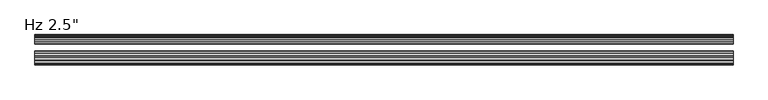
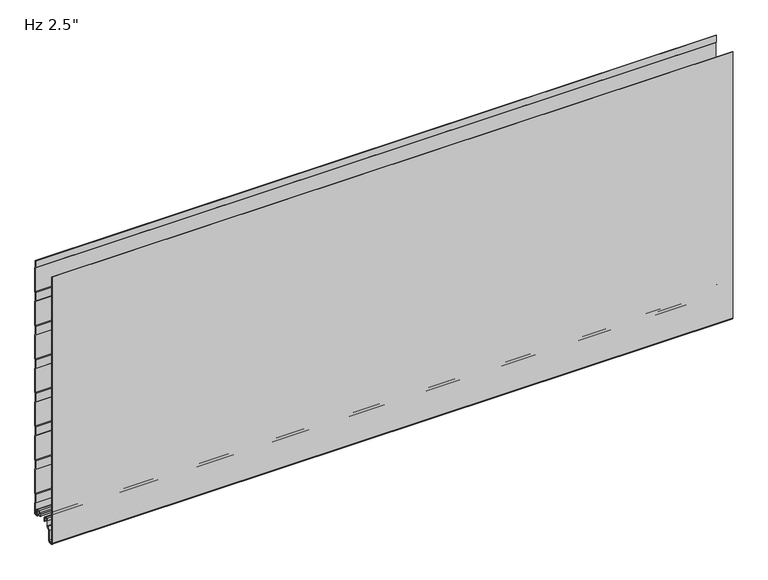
"""IFC4 building model written with IfcOpenShell, lengths in millimetres: plate geometry."""

from ifc_helpers import new_model, si_unit, point, frame, frame_2d, origin, place, context, project, spatial, polyline, circle_curve, trimmed, segment, composite_curve, outline, extrude, source, transform, mapped, element, save
from ifc_brep_helpers import plane_surface, cylinder_surface, revolved_surface, advanced_brep


def plate_89738af0(model_context):
    return source(origin(), model_context, "Body", "SolidModel", [
        extrude(outline(composite_curve([segment(trimmed(circle_curve(frame_2d((-59.9297491, -32.4521148)), 3.5702393), [point((-59.6184787, -36.0087592))], [point((-63.4999884, -32.4521125))], False, "CARTESIAN"), True, "CONTINUOUS"), segment(polyline([(-63.4999884, -32.4521125), (-63.4996024, 571.2), (-62.4993815, 571.2), (-62.4993815, -32.509446)]), True, "CONTINUOUS"), segment(trimmed(circle_curve(frame_2d((-59.9297816, -32.4521176)), 2.5702393), [point((-62.4993815, -32.509446))], [point((-59.705696, -35.0125699))], True, "CARTESIAN"), True, "CONTINUOUS"), segment(polyline([(-59.705696, -35.0125699), (-54.7238751, -34.5765709)]), True, "CONTINUOUS"), segment(trimmed(circle_curve(frame_2d((-55.2052657, -31.9198392)), 2.6999926), [point((-54.7238751, -34.5765709))], [point((-52.5052731, -31.9198392))], True, "CARTESIAN"), True, "CONTINUOUS"), segment(polyline([(-52.5052731, -31.9198392), (-52.5052731, -9.8247096), (-47.003202, -4.3226385)]), True, "CONTINUOUS"), segment(trimmed(circle_curve(frame_2d((-48.2052797, -3.1205608)), 1.6999946), [point((-47.003202, -4.3226385))], [point((-46.5052851, -3.1205608))], True, "CARTESIAN"), True, "CONTINUOUS"), segment(polyline([(-46.5052851, -3.1205608), (-46.5052851, 8.6903283)]), True, "CONTINUOUS"), segment(trimmed(circle_curve(frame_2d((-43.1552898, 8.6903283)), 3.3499953), [point((-46.5052851, 8.6903283))], [point((-43.1552898, 12.0403236))], False, "CARTESIAN"), True, "CONTINUOUS"), segment(polyline([(-43.1552898, 12.0403236), (-38.7552986, 12.0403236)]), True, "CONTINUOUS"), segment(trimmed(circle_curve(frame_2d((-38.7552986, 8.6903283)), 3.3499953), [point((-38.7552986, 12.0403236))], [point((-35.4053033, 8.6903283))], False, "CARTESIAN"), True, "CONTINUOUS"), segment(polyline([(-35.4053033, 8.6903283), (-35.4053033, 5.9912173), (-34.0068244, 5.9912173), (-34.0068244, 2.2328239)]), True, "CONTINUOUS"), segment(trimmed(circle_curve(frame_2d((-35.2068211, 2.2313092)), 1.1999976), [point((-34.0068244, 2.2328239))], [point((-35.1762992, 1.0316999))], False, "CARTESIAN"), True, "CONTINUOUS"), segment(trimmed(circle_curve(frame_2d((-35.2068211, 2.2313092)), 1.1999976), [point((-35.1762992, 1.0316999))], [point((-36.4053033, 2.1710221))], False, "CARTESIAN"), True, "CONTINUOUS"), segment(polyline([(-36.4053033, 2.1710221), (-36.4053033, 8.6903283)]), True, "CONTINUOUS"), segment(trimmed(circle_curve(frame_2d((-38.7552986, 8.6903283)), 2.3499953), [point((-36.4053033, 8.6903283))], [point((-38.7552986, 11.0403236))], True, "CARTESIAN"), True, "CONTINUOUS"), segment(polyline([(-38.7552986, 11.0403236), (-43.1552898, 11.0403236)]), True, "CONTINUOUS"), segment(trimmed(circle_curve(frame_2d((-43.1552898, 8.6903283)), 2.3499953), [point((-43.1552898, 11.0403236))], [point((-45.5052851, 8.6903283))], True, "CARTESIAN"), True, "CONTINUOUS"), segment(polyline([(-45.5052851, 8.6903283), (-45.5052851, -3.1205608)]), True, "CONTINUOUS"), segment(trimmed(circle_curve(frame_2d((-48.2052797, -3.1205608)), 2.6999946), [point((-45.5052851, -3.1205608))], [point((-46.2960952, -5.0297453))], False, "CARTESIAN"), True, "CONTINUOUS"), segment(polyline([(-46.2960952, -5.0297453), (-51.1245127, -9.8581627)]), True, "CONTINUOUS"), segment(trimmed(circle_curve(frame_2d((-50.2052757, -10.7773997)), 1.2999974), [point((-51.1245127, -9.8581627))], [point((-51.5052731, -10.7773997))], True, "CARTESIAN"), True, "CONTINUOUS"), segment(polyline([(-51.5052731, -10.7773997), (-51.5052731, -31.9198392)]), True, "CONTINUOUS"), segment(trimmed(circle_curve(frame_2d((-55.2052657, -31.9198392)), 3.6999926), [point((-51.5052731, -31.9198392))], [point((-54.5944646, -35.5690675))], False, "CARTESIAN"), True, "CONTINUOUS"), segment(polyline([(-54.5944646, -35.5690675), (-59.6184787, -36.0087592)]), True, "CONTINUOUS")], self_intersect=False)), frame((-730.0, 0.0, 0.0), z_axis=(1.0, 0.0, 0.0), x_axis=(0.0, 1.0, 0.0)), (0.0, 0.0, 1.0), 1460.0),
        advanced_brep(
        [(-730.0, -17.0015368, 2.0313088), (-730.0, -18.00154, 1.0313116), (-730.0, -19.0015314, 2.0313088), (-730.0, -19.0015314, 6.0315125), (-730.0, -18.0015368, 6.0315125), (-730.0, -18.0015368, 8.7237223), (-730.0, -14.7015411, 12.023718), (-730.0, -10.3015499, 12.023718), (-730.0, -7.0015544, 8.7237225), (-730.0, -7.0015544, -1.6962564), (-730.0, -5.2315602, -3.4662506), (-730.0, -1.0000126, -3.4662506), (-730.0, -1.0000126, 21.034026), (-730.0, -2.2002516, 22.4196686), (-730.0, -2.2002516, 41.7948349), (-730.0, -1.0000209, 43.1804679), (-730.0, -1.0000209, 97.2338833), (-730.0, -2.2002516, 98.6195162), (-730.0, -2.2002516, 117.9946825), (-730.0, -1.0000209, 119.3803155), (-730.0, -1.0000209, 173.4337309), (-730.0, -2.2002516, 174.8193638), (-730.0, -2.2002516, 194.1945301), (-730.0, -1.0000209, 195.5801631), (-730.0, -1.0000209, 249.6335785), (-730.0, -2.2002516, 251.0192114), (-730.0, -2.2002516, 270.3943777), (-730.0, -1.0000209, 271.7800107), (-730.0, -1.0000209, 325.8334261), (-730.0, -2.2002516, 327.219059), (-730.0, -2.2002516, 346.5942253), (-730.0, -1.0000209, 347.9798583), (-730.0, -1.0000209, 402.0332737), (-730.0, -2.2002516, 403.4189066), (-730.0, -2.2002516, 422.7940729), (-730.0, -1.0000209, 424.1797059), (-730.0, -1.0000209, 478.2331213), (-730.0, -2.2002516, 479.6187542), (-730.0, -2.2002516, 498.9939205), (-730.0, -1.0000209, 500.3795535), (-730.0, -1.0000209, 554.4329689), (-730.0, -2.2002516, 555.8186018), (-730.0, -2.2002516, 571.2), (-730.0, -1.2002516, 571.2), (-730.0, -1.2002516, 556.1914823), (-730.0, -0.3418094, 555.2004346), (-730.0, -2.09e-05, 554.2838177), (-730.0, -2.09e-05, 500.5287046), (-730.0, -0.3418094, 499.6120877), (-730.0, -1.2002516, 498.6210401), (-730.0, -1.2002516, 479.9916347), (-730.0, -0.3418094, 479.000587), (-730.0, -2.09e-05, 478.0839701), (-730.0, -2.09e-05, 424.328857), (-730.0, -0.3418094, 423.4122401), (-730.0, -1.2002516, 422.4211925), (-730.0, -1.2002516, 403.7917871), (-730.0, -0.3418094, 402.8007394), (-730.0, -2.09e-05, 401.8841225), (-730.0, -2.09e-05, 348.1290094), (-730.0, -0.3418094, 347.2123925), (-730.0, -1.2002516, 346.2213449), (-730.0, -1.2002516, 327.5919395), (-730.0, -0.3418094, 326.6008918), (-730.0, -2.09e-05, 325.6842749), (-730.0, -2.09e-05, 271.9291618), (-730.0, -0.3418094, 271.0125449), (-730.0, -1.2002516, 270.0214973), (-730.0, -1.2002516, 251.3920919), (-730.0, -0.3418094, 250.4010442), (-730.0, -2.09e-05, 249.4844273), (-730.0, -2.09e-05, 195.7293142), (-730.0, -0.3418094, 194.8126973), (-730.0, -1.2002516, 193.8216497), (-730.0, -1.2002516, 175.1922443), (-730.0, -0.3418094, 174.2011966), (-730.0, -2.09e-05, 173.2845797), (-730.0, -2.09e-05, 119.5294666), (-730.0, -0.3418094, 118.6128497), (-730.0, -1.2002516, 117.6218021), (-730.0, -1.2002516, 98.9923967), (-730.0, -0.3418094, 98.001349), (-730.0, -2.09e-05, 97.0847321), (-730.0, -2.09e-05, 43.329619), (-730.0, -0.3418094, 42.4130021), (-730.0, -1.2002516, 41.4219545), (-730.0, -1.2002516, 22.7925491), (-730.0, -0.3418094, 21.8015014), (-730.0, -2.09e-05, 20.8847931), (-730.0, -1.26e-05, -3.0662545), (-730.0, -1.4000087, -4.4662506), (-730.0, -5.2315602, -4.4662506), (-730.0, -8.0015544, -1.6962564), (-730.0, -8.0015544, 8.7237225), (-730.0, -10.3015499, 11.023718), (-730.0, -14.7015411, 11.023718), (-730.0, -17.0015368, 8.7237223), (730.0, -17.0015368, 2.0313088), (730.0, -17.0015368, 8.7237223), (730.0, -14.7015411, 11.023718), (730.0, -10.3015499, 11.023718), (730.0, -8.0015544, 8.7237225), (730.0, -8.0015544, -1.6962564), (730.0, -5.2315602, -4.4662506), (730.0, -1.4000087, -4.4662506), (730.0, -1.26e-05, -3.0662545), (730.0, -1.26e-05, 20.8848845), (730.0, -0.3418094, 21.8015014), (730.0, -1.2002516, 22.7925491), (730.0, -1.2002516, 41.4219545), (730.0, -0.3418094, 42.4130021), (730.0, -2.09e-05, 43.329619), (730.0, -2.09e-05, 97.0847321), (730.0, -0.3418094, 98.001349), (730.0, -1.2002516, 98.9923967), (730.0, -1.2002516, 117.6218021), (730.0, -0.3418094, 118.6128497), (730.0, -2.09e-05, 119.5294666), (730.0, -2.09e-05, 173.2845797), (730.0, -0.3418094, 174.2011966), (730.0, -1.2002516, 175.1922443), (730.0, -1.2002516, 193.8216497), (730.0, -0.3418094, 194.8126973), (730.0, -2.09e-05, 195.7293142), (730.0, -2.09e-05, 249.4844273), (730.0, -0.3418094, 250.4010442), (730.0, -1.2002516, 251.3920919), (730.0, -1.2002516, 270.0214973), (730.0, -0.3418094, 271.0125449), (730.0, -2.09e-05, 271.9291618), (730.0, -2.09e-05, 325.6842749), (730.0, -0.3418094, 326.6008918), (730.0, -1.2002516, 327.5919395), (730.0, -1.2002516, 346.2213449), (730.0, -0.3418094, 347.2123925), (730.0, -2.09e-05, 348.1290094), (730.0, -2.09e-05, 401.8841225), (730.0, -0.3418094, 402.8007394), (730.0, -1.2002516, 403.7917871), (730.0, -1.2002516, 422.4211925), (730.0, -0.3418094, 423.4122401), (730.0, -2.09e-05, 424.328857), (730.0, -2.09e-05, 478.0839701), (730.0, -0.3418094, 479.000587), (730.0, -1.2002516, 479.9916347), (730.0, -1.2002516, 498.6210401), (730.0, -0.3418094, 499.6120877), (730.0, -2.09e-05, 500.5287046), (730.0, -2.09e-05, 554.2838177), (730.0, -0.3418094, 555.2004346), (730.0, -1.2002516, 556.1914823), (730.0, -1.2002516, 571.2), (730.0, -2.2002516, 571.2), (730.0, -2.2002516, 555.8186018), (730.0, -1.0000209, 554.4329689), (730.0, -1.0000209, 500.3795535), (730.0, -2.2002516, 498.9939205), (730.0, -2.2002516, 479.6187542), (730.0, -1.0000209, 478.2331213), (730.0, -1.0000209, 424.1797059), (730.0, -2.2002516, 422.7940729), (730.0, -2.2002516, 403.4189066), (730.0, -1.0000209, 402.0332737), (730.0, -1.0000209, 347.9798583), (730.0, -2.2002516, 346.5942253), (730.0, -2.2002516, 327.219059), (730.0, -1.0000209, 325.8334261), (730.0, -1.0000209, 271.7800107), (730.0, -2.2002516, 270.3943777), (730.0, -2.2002516, 251.0192114), (730.0, -1.0000209, 249.6335785), (730.0, -1.0000209, 195.5801631), (730.0, -2.2002516, 194.1945301), (730.0, -2.2002516, 174.8193638), (730.0, -1.0000209, 173.4337309), (730.0, -1.0000209, 119.3803155), (730.0, -2.2002516, 117.9946825), (730.0, -2.2002516, 98.6195162), (730.0, -1.0000209, 97.2338833), (730.0, -1.0000209, 43.1804679), (730.0, -2.2002516, 41.7948349), (730.0, -2.2002516, 22.4196686), (730.0, -1.0000126, 21.034026), (730.0, -1.0000126, -3.4662506), (730.0, -5.2315602, -3.4662506), (730.0, -7.0015544, -1.6962564), (730.0, -7.0015544, 8.7237225), (730.0, -10.3015499, 12.023718), (730.0, -14.7015411, 12.023718), (730.0, -18.0015368, 8.7237223), (730.0, -18.0015368, 6.0315125), (730.0, -19.0015314, 6.0315125), (730.0, -19.0015314, 2.0313088), (730.0, -18.0015401, 1.0313116)],
        [
            (0, 1, circle_curve(frame((-730.0, -18.0015341, 2.0313088), z_axis=(-1.0, 0.0, 0.0), x_axis=(0.0, 0.0, 1.0)), 0.9999973)),
            (1, 2, circle_curve(frame((-730.0, -18.0015342, 2.0313088), z_axis=(-1.0, 0.0, 0.0), x_axis=(0.0, 0.0, 1.0)), 0.9999972)),
            (2, 3),
            (3, 4),
            (4, 5),
            (5, 6, circle_curve(frame((-730.0, -14.7015411, 8.7237223), z_axis=(-1.0, 0.0, 0.0), x_axis=(0.0, 0.0, 1.0)), 3.2999957)),
            (6, 7),
            (7, 8, circle_curve(frame((-730.0, -10.3015499, 8.7237225), z_axis=(-1.0, 0.0, 0.0), x_axis=(0.0, 0.0, 1.0)), 3.2999955)),
            (8, 9),
            (9, 10, circle_curve(frame((-730.0, -5.2315602, -1.6962564), z_axis=(1.0, 0.0, 0.0), x_axis=(0.0, 0.0, 1.0)), 1.7699942)),
            (10, 11),
            (11, 12),
            (12, 13),
            (13, 14),
            (14, 15),
            (15, 16),
            (16, 17),
            (17, 18),
            (18, 19),
            (19, 20),
            (20, 21),
            (21, 22),
            (22, 23),
            (23, 24),
            (24, 25),
            (25, 26),
            (26, 27),
            (27, 28),
            (28, 29),
            (29, 30),
            (30, 31),
            (31, 32),
            (32, 33),
            (33, 34),
            (34, 35),
            (35, 36),
            (36, 37),
            (37, 38),
            (38, 39),
            (39, 40),
            (40, 41),
            (41, 42),
            (42, 43),
            (43, 44),
            (44, 45),
            (45, 46, circle_curve(frame((-730.0, -1.4000181, 554.2838177), z_axis=(-1.0, 0.0, 0.0), x_axis=(0.0, 0.0, 1.0)), 1.3999972)),
            (46, 47),
            (47, 48, circle_curve(frame((-730.0, -1.4000181, 500.5287046), z_axis=(-1.0, 0.0, 0.0), x_axis=(0.0, 0.0, 1.0)), 1.3999972)),
            (48, 49),
            (49, 50),
            (50, 51),
            (51, 52, circle_curve(frame((-730.0, -1.4000181, 478.0839701), z_axis=(-1.0, 0.0, 0.0), x_axis=(0.0, 0.0, 1.0)), 1.3999972)),
            (52, 53),
            (53, 54, circle_curve(frame((-730.0, -1.4000181, 424.328857), z_axis=(-1.0, 0.0, 0.0), x_axis=(0.0, 0.0, 1.0)), 1.3999972)),
            (54, 55),
            (55, 56),
            (56, 57),
            (57, 58, circle_curve(frame((-730.0, -1.4000181, 401.8841225), z_axis=(-1.0, 0.0, 0.0), x_axis=(0.0, 0.0, 1.0)), 1.3999972)),
            (58, 59),
            (59, 60, circle_curve(frame((-730.0, -1.4000181, 348.1290094), z_axis=(-1.0, 0.0, 0.0), x_axis=(0.0, 0.0, 1.0)), 1.3999972)),
            (60, 61),
            (61, 62),
            (62, 63),
            (63, 64, circle_curve(frame((-730.0, -1.4000181, 325.6842749), z_axis=(-1.0, 0.0, 0.0), x_axis=(0.0, 0.0, 1.0)), 1.3999972)),
            (64, 65),
            (65, 66, circle_curve(frame((-730.0, -1.4000181, 271.9291618), z_axis=(-1.0, 0.0, 0.0), x_axis=(0.0, 0.0, 1.0)), 1.3999972)),
            (66, 67),
            (67, 68),
            (68, 69),
            (69, 70, circle_curve(frame((-730.0, -1.4000181, 249.4844273), z_axis=(-1.0, 0.0, 0.0), x_axis=(0.0, 0.0, 1.0)), 1.3999972)),
            (70, 71),
            (71, 72, circle_curve(frame((-730.0, -1.4000181, 195.7293142), z_axis=(-1.0, 0.0, 0.0), x_axis=(0.0, 0.0, 1.0)), 1.3999972)),
            (72, 73),
            (73, 74),
            (74, 75),
            (75, 76, circle_curve(frame((-730.0, -1.4000181, 173.2845797), z_axis=(-1.0, 0.0, 0.0), x_axis=(0.0, 0.0, 1.0)), 1.3999972)),
            (76, 77),
            (77, 78, circle_curve(frame((-730.0, -1.4000181, 119.5294666), z_axis=(-1.0, 0.0, 0.0), x_axis=(0.0, 0.0, 1.0)), 1.3999972)),
            (78, 79),
            (79, 80),
            (80, 81),
            (81, 82, circle_curve(frame((-730.0, -1.4000181, 97.0847321), z_axis=(-1.0, 0.0, 0.0), x_axis=(0.0, 0.0, 1.0)), 1.3999972)),
            (82, 83),
            (83, 84, circle_curve(frame((-730.0, -1.4000181, 43.329619), z_axis=(-1.0, 0.0, 0.0), x_axis=(0.0, 0.0, 1.0)), 1.3999972)),
            (84, 85),
            (85, 86),
            (86, 87),
            (87, 88, circle_curve(frame((-730.0, -1.4000181, 20.8848845), z_axis=(-1.0, 0.0, 0.0), x_axis=(0.0, 0.0, 1.0)), 1.3999972)),
            (88, 89),
            (89, 90, circle_curve(frame((-730.0, -1.4000087, -3.0662545), z_axis=(-1.0, 0.0, 0.0), x_axis=(0.0, 0.0, 1.0)), 1.3999962)),
            (90, 91),
            (91, 92, circle_curve(frame((-730.0, -5.2315602, -1.6962564), z_axis=(-1.0, 0.0, 0.0), x_axis=(0.0, 0.0, 1.0)), 2.7699942)),
            (92, 93),
            (93, 94, circle_curve(frame((-730.0, -10.3015499, 8.7237225), z_axis=(1.0, 0.0, 0.0), x_axis=(0.0, 0.0, 1.0)), 2.2999955)),
            (94, 95),
            (95, 96, circle_curve(frame((-730.0, -14.7015411, 8.7237223), z_axis=(1.0, 0.0, 0.0), x_axis=(0.0, 0.0, 1.0)), 2.2999957)),
            (96, 0),
            (97, 98),
            (98, 99, circle_curve(frame((730.0, -14.7015411, 8.7237223), z_axis=(-1.0, 0.0, 0.0), x_axis=(0.0, 0.0, 1.0)), 2.2999957)),
            (99, 100),
            (100, 101, circle_curve(frame((730.0, -10.3015499, 8.7237225), z_axis=(-1.0, 0.0, 0.0), x_axis=(0.0, 0.0, 1.0)), 2.2999955)),
            (101, 102),
            (102, 103, circle_curve(frame((730.0, -5.2315602, -1.6962564), z_axis=(1.0, 0.0, 0.0), x_axis=(0.0, 0.0, 1.0)), 2.7699942)),
            (103, 104),
            (104, 105, circle_curve(frame((730.0, -1.4000087, -3.0662545), z_axis=(1.0, 0.0, 0.0), x_axis=(0.0, 0.0, 1.0)), 1.3999962)),
            (105, 106),
            (106, 107, circle_curve(frame((730.0, -1.4000181, 20.8848845), z_axis=(1.0, 0.0, 0.0), x_axis=(0.0, 0.0, 1.0)), 1.3999972)),
            (107, 108),
            (108, 109),
            (109, 110),
            (110, 111, circle_curve(frame((730.0, -1.4000181, 43.329619), z_axis=(1.0, 0.0, 0.0), x_axis=(0.0, 0.0, 1.0)), 1.3999972)),
            (111, 112),
            (112, 113, circle_curve(frame((730.0, -1.4000181, 97.0847321), z_axis=(1.0, 0.0, 0.0), x_axis=(0.0, 0.0, 1.0)), 1.3999972)),
            (113, 114),
            (114, 115),
            (115, 116),
            (116, 117, circle_curve(frame((730.0, -1.4000181, 119.5294666), z_axis=(1.0, 0.0, 0.0), x_axis=(0.0, 0.0, 1.0)), 1.3999972)),
            (117, 118),
            (118, 119, circle_curve(frame((730.0, -1.4000181, 173.2845797), z_axis=(1.0, 0.0, 0.0), x_axis=(0.0, 0.0, 1.0)), 1.3999972)),
            (119, 120),
            (120, 121),
            (121, 122),
            (122, 123, circle_curve(frame((730.0, -1.4000181, 195.7293142), z_axis=(1.0, 0.0, 0.0), x_axis=(0.0, 0.0, 1.0)), 1.3999972)),
            (123, 124),
            (124, 125, circle_curve(frame((730.0, -1.4000181, 249.4844273), z_axis=(1.0, 0.0, 0.0), x_axis=(0.0, 0.0, 1.0)), 1.3999972)),
            (125, 126),
            (126, 127),
            (127, 128),
            (128, 129, circle_curve(frame((730.0, -1.4000181, 271.9291618), z_axis=(1.0, 0.0, 0.0), x_axis=(0.0, 0.0, 1.0)), 1.3999972)),
            (129, 130),
            (130, 131, circle_curve(frame((730.0, -1.4000181, 325.6842749), z_axis=(1.0, 0.0, 0.0), x_axis=(0.0, 0.0, 1.0)), 1.3999972)),
            (131, 132),
            (132, 133),
            (133, 134),
            (134, 135, circle_curve(frame((730.0, -1.4000181, 348.1290094), z_axis=(1.0, 0.0, 0.0), x_axis=(0.0, 0.0, 1.0)), 1.3999972)),
            (135, 136),
            (136, 137, circle_curve(frame((730.0, -1.4000181, 401.8841225), z_axis=(1.0, 0.0, 0.0), x_axis=(0.0, 0.0, 1.0)), 1.3999972)),
            (137, 138),
            (138, 139),
            (139, 140),
            (140, 141, circle_curve(frame((730.0, -1.4000181, 424.328857), z_axis=(1.0, 0.0, 0.0), x_axis=(0.0, 0.0, 1.0)), 1.3999972)),
            (141, 142),
            (142, 143, circle_curve(frame((730.0, -1.4000181, 478.0839701), z_axis=(1.0, 0.0, 0.0), x_axis=(0.0, 0.0, 1.0)), 1.3999972)),
            (143, 144),
            (144, 145),
            (145, 146),
            (146, 147, circle_curve(frame((730.0, -1.4000181, 500.5287046), z_axis=(1.0, 0.0, 0.0), x_axis=(0.0, 0.0, 1.0)), 1.3999972)),
            (147, 148),
            (148, 149, circle_curve(frame((730.0, -1.4000181, 554.2838177), z_axis=(1.0, 0.0, 0.0), x_axis=(0.0, 0.0, 1.0)), 1.3999972)),
            (149, 150),
            (150, 151),
            (151, 152),
            (152, 153),
            (153, 154),
            (154, 155),
            (155, 156),
            (156, 157),
            (157, 158),
            (158, 159),
            (159, 160),
            (160, 161),
            (161, 162),
            (162, 163),
            (163, 164),
            (164, 165),
            (165, 166),
            (166, 167),
            (167, 168),
            (168, 169),
            (169, 170),
            (170, 171),
            (171, 172),
            (172, 173),
            (173, 174),
            (174, 175),
            (175, 176),
            (176, 177),
            (177, 178),
            (178, 179),
            (179, 180),
            (180, 181),
            (181, 182),
            (182, 183),
            (183, 184),
            (184, 185, circle_curve(frame((730.0, -5.2315602, -1.6962564), z_axis=(-1.0, 0.0, 0.0), x_axis=(0.0, 0.0, 1.0)), 1.7699942)),
            (185, 186),
            (186, 187, circle_curve(frame((730.0, -10.3015499, 8.7237225), z_axis=(1.0, 0.0, 0.0), x_axis=(0.0, 0.0, 1.0)), 3.2999955)),
            (187, 188),
            (188, 189, circle_curve(frame((730.0, -14.7015411, 8.7237223), z_axis=(1.0, 0.0, 0.0), x_axis=(0.0, 0.0, 1.0)), 3.2999957)),
            (189, 190),
            (190, 191),
            (191, 192),
            (192, 193, circle_curve(frame((730.0, -18.0015342, 2.0313088), z_axis=(1.0, 0.0, 0.0), x_axis=(0.0, 0.0, 1.0)), 0.9999972)),
            (193, 97, circle_curve(frame((730.0, -18.0015341, 2.0313088), z_axis=(1.0, 0.0, 0.0), x_axis=(0.0, 0.0, 1.0)), 0.9999973)),
            (42, 152),
            (151, 43),
            (96, 98),
            (97, 0),
            (95, 99),
            (94, 100),
            (93, 101),
            (92, 102),
            (91, 103),
            (90, 104),
            (89, 105),
            (88, 106),
            (87, 107),
            (86, 108),
            (85, 109),
            (84, 110),
            (83, 111),
            (82, 112),
            (81, 113),
            (80, 114),
            (79, 115),
            (78, 116),
            (77, 117),
            (76, 118),
            (75, 119),
            (74, 120),
            (73, 121),
            (72, 122),
            (71, 123),
            (70, 124),
            (69, 125),
            (68, 126),
            (67, 127),
            (66, 128),
            (65, 129),
            (64, 130),
            (63, 131),
            (62, 132),
            (61, 133),
            (60, 134),
            (59, 135),
            (58, 136),
            (57, 137),
            (56, 138),
            (55, 139),
            (54, 140),
            (53, 141),
            (52, 142),
            (51, 143),
            (50, 144),
            (49, 145),
            (48, 146),
            (47, 147),
            (46, 148),
            (45, 149),
            (44, 150),
            (41, 153),
            (40, 154),
            (39, 155),
            (38, 156),
            (37, 157),
            (36, 158),
            (35, 159),
            (34, 160),
            (33, 161),
            (32, 162),
            (31, 163),
            (30, 164),
            (29, 165),
            (28, 166),
            (27, 167),
            (26, 168),
            (25, 169),
            (24, 170),
            (23, 171),
            (22, 172),
            (21, 173),
            (20, 174),
            (19, 175),
            (18, 176),
            (17, 177),
            (16, 178),
            (15, 179),
            (14, 180),
            (13, 181),
            (12, 182),
            (11, 183),
            (10, 184),
            (9, 185),
            (8, 186),
            (7, 187),
            (6, 188),
            (5, 189),
            (4, 190),
            (3, 191),
            (2, 192),
            (1, 193),
        ],
        [
            plane_surface(frame((-730.0, -2.09e-05, 457.2), z_axis=(-1.0, 0.0, 0.0), x_axis=(0.0, 1.0, 0.0))),
            plane_surface(frame((730.0, -2.09e-05, 457.2), z_axis=(1.0, 0.0, 0.0), x_axis=(0.0, 1.0, 0.0))),
            plane_surface(frame((730.0, 9.9999791, 571.2), z_axis=(0.0, 0.0, 1.0), x_axis=(-1.0, 0.0, 0.0))),
            plane_surface(frame((-730.0, -17.0015368, 2.0313088), z_axis=(0.0, 1.0, 0.0), x_axis=(1.0, 0.0, 0.0))),
            revolved_surface(polyline([(730.0, -14.7015411, 11.023718), (-730.0, -14.7015411, 11.023718)]), (-730.0, -14.7015411, 8.7237223), (1.0, 0.0, 0.0)),
            plane_surface(frame((-730.0, -14.7015411, 11.023718), z_axis=(0.0, 0.0, -1.0), x_axis=(1.0, 0.0, 0.0))),
            revolved_surface(polyline([(730.0, -10.3015499, 11.023717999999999), (-730.0, -10.3015499, 11.023717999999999)]), (-730.0, -10.3015499, 8.7237225), (1.0, 0.0, 0.0)),
            plane_surface(frame((-730.0, -8.0015544, 8.7237225), z_axis=(0.0, -1.0, 0.0), x_axis=(1.0, 0.0, 0.0))),
            cylinder_surface(frame((-730.0, -5.2315602, -1.6962564), z_axis=(-1.0, 0.0, 0.0), x_axis=(0.0, 0.0, 1.0)), 2.7699942),
            plane_surface(frame((-730.0, -5.2315602, -4.4662506), z_axis=(0.0, 0.0, -1.0), x_axis=(1.0, 0.0, 0.0))),
            cylinder_surface(frame((-730.0, -1.4000087, -3.0662545), z_axis=(-1.0, 0.0, 0.0), x_axis=(0.0, 0.0, 1.0)), 1.3999962),
            plane_surface(frame((-730.0, -1.26e-05, -3.0662545), z_axis=(0.0, 1.0, 0.0), x_axis=(1.0, 0.0, 0.0))),
            cylinder_surface(frame((-730.0, -1.4000181, 20.8848845), z_axis=(-1.0, 0.0, 0.0), x_axis=(0.0, 0.0, 1.0)), 1.3999972),
            plane_surface(frame((-730.0, -0.3418094, 21.8015014), z_axis=(0.0, 0.755864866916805, 0.6547276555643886), x_axis=(1.0, 0.0, 0.0))),
            plane_surface(frame((-730.0, -1.2002516, 32.1072518), z_axis=(0.0, 1.0, 0.0), x_axis=(1.0, 0.0, 0.0))),
            plane_surface(frame((-730.0, -1.2002516, 41.4219545), z_axis=(0.0, 0.755864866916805, -0.6547276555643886), x_axis=(1.0, 0.0, 0.0))),
            cylinder_surface(frame((-730.0, -1.4000181, 43.329619), z_axis=(-1.0, 0.0, 0.0), x_axis=(0.0, 0.0, 1.0)), 1.3999972),
            plane_surface(frame((-730.0, -2.09e-05, 43.329619), z_axis=(0.0, 1.0, 0.0), x_axis=(1.0, 0.0, 0.0))),
            cylinder_surface(frame((-730.0, -1.4000181, 97.0847321), z_axis=(-1.0, 0.0, 0.0), x_axis=(0.0, 0.0, 1.0)), 1.3999972),
            plane_surface(frame((-730.0, -0.3418094, 98.001349), z_axis=(0.0, 0.755864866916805, 0.6547276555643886), x_axis=(1.0, 0.0, 0.0))),
            plane_surface(frame((-730.0, -1.2002516, 108.3070994), z_axis=(0.0, 1.0, 0.0), x_axis=(1.0, 0.0, 0.0))),
            plane_surface(frame((-730.0, -1.2002516, 117.6218021), z_axis=(0.0, 0.755864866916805, -0.6547276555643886), x_axis=(1.0, 0.0, 0.0))),
            cylinder_surface(frame((-730.0, -1.4000181, 119.5294666), z_axis=(-1.0, 0.0, 0.0), x_axis=(0.0, 0.0, 1.0)), 1.3999972),
            plane_surface(frame((-730.0, -2.09e-05, 119.5294666), z_axis=(0.0, 1.0, 0.0), x_axis=(1.0, 0.0, 0.0))),
            cylinder_surface(frame((-730.0, -1.4000181, 173.2845797), z_axis=(-1.0, 0.0, 0.0), x_axis=(0.0, 0.0, 1.0)), 1.3999972),
            plane_surface(frame((-730.0, -0.3418094, 174.2011966), z_axis=(0.0, 0.755864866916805, 0.6547276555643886), x_axis=(1.0, 0.0, 0.0))),
            plane_surface(frame((-730.0, -1.2002516, 184.506947), z_axis=(0.0, 1.0, 0.0), x_axis=(1.0, 0.0, 0.0))),
            plane_surface(frame((-730.0, -1.2002516, 193.8216497), z_axis=(0.0, 0.755864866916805, -0.6547276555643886), x_axis=(1.0, 0.0, 0.0))),
            cylinder_surface(frame((-730.0, -1.4000181, 195.7293142), z_axis=(-1.0, 0.0, 0.0), x_axis=(0.0, 0.0, 1.0)), 1.3999972),
            plane_surface(frame((-730.0, -2.09e-05, 195.7293142), z_axis=(0.0, 1.0, 0.0), x_axis=(1.0, 0.0, 0.0))),
            cylinder_surface(frame((-730.0, -1.4000181, 249.4844273), z_axis=(-1.0, 0.0, 0.0), x_axis=(0.0, 0.0, 1.0)), 1.3999972),
            plane_surface(frame((-730.0, -0.3418094, 250.4010442), z_axis=(0.0, 0.755864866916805, 0.6547276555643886), x_axis=(1.0, 0.0, 0.0))),
            plane_surface(frame((-730.0, -1.2002516, 260.7067946), z_axis=(0.0, 1.0, 0.0), x_axis=(1.0, 0.0, 0.0))),
            plane_surface(frame((-730.0, -1.2002516, 270.0214973), z_axis=(0.0, 0.755864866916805, -0.6547276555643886), x_axis=(1.0, 0.0, 0.0))),
            cylinder_surface(frame((-730.0, -1.4000181, 271.9291618), z_axis=(-1.0, 0.0, 0.0), x_axis=(0.0, 0.0, 1.0)), 1.3999972),
            plane_surface(frame((-730.0, -2.09e-05, 271.9291618), z_axis=(0.0, 1.0, 0.0), x_axis=(1.0, 0.0, 0.0))),
            cylinder_surface(frame((-730.0, -1.4000181, 325.6842749), z_axis=(-1.0, 0.0, 0.0), x_axis=(0.0, 0.0, 1.0)), 1.3999972),
            plane_surface(frame((-730.0, -0.3418094, 326.6008918), z_axis=(0.0, 0.755864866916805, 0.6547276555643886), x_axis=(1.0, 0.0, 0.0))),
            plane_surface(frame((-730.0, -1.2002516, 336.9066422), z_axis=(0.0, 1.0, 0.0), x_axis=(1.0, 0.0, 0.0))),
            plane_surface(frame((-730.0, -1.2002516, 346.2213449), z_axis=(0.0, 0.755864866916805, -0.6547276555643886), x_axis=(1.0, 0.0, 0.0))),
            cylinder_surface(frame((-730.0, -1.4000181, 348.1290094), z_axis=(-1.0, 0.0, 0.0), x_axis=(0.0, 0.0, 1.0)), 1.3999972),
            plane_surface(frame((-730.0, -2.09e-05, 348.1290094), z_axis=(0.0, 1.0, 0.0), x_axis=(1.0, 0.0, 0.0))),
            cylinder_surface(frame((-730.0, -1.4000181, 401.8841225), z_axis=(-1.0, 0.0, 0.0), x_axis=(0.0, 0.0, 1.0)), 1.3999972),
            plane_surface(frame((-730.0, -0.3418094, 402.8007394), z_axis=(0.0, 0.755864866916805, 0.6547276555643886), x_axis=(1.0, 0.0, 0.0))),
            plane_surface(frame((-730.0, -1.2002516, 413.1064898), z_axis=(0.0, 1.0, 0.0), x_axis=(1.0, 0.0, 0.0))),
            plane_surface(frame((-730.0, -1.2002516, 422.4211925), z_axis=(0.0, 0.755864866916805, -0.6547276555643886), x_axis=(1.0, 0.0, 0.0))),
            cylinder_surface(frame((-730.0, -1.4000181, 424.328857), z_axis=(-1.0, 0.0, 0.0), x_axis=(0.0, 0.0, 1.0)), 1.3999972),
            plane_surface(frame((-730.0, -2.09e-05, 424.328857), z_axis=(0.0, 1.0, 0.0), x_axis=(1.0, 0.0, 0.0))),
            cylinder_surface(frame((-730.0, -1.4000181, 478.0839701), z_axis=(-1.0, 0.0, 0.0), x_axis=(0.0, 0.0, 1.0)), 1.3999972),
            plane_surface(frame((-730.0, -0.3418094, 479.000587), z_axis=(0.0, 0.755864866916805, 0.6547276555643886), x_axis=(1.0, 0.0, 0.0))),
            plane_surface(frame((-730.0, -1.2002516, 489.3063374), z_axis=(0.0, 1.0, 0.0), x_axis=(1.0, 0.0, 0.0))),
            plane_surface(frame((-730.0, -1.2002516, 498.6210401), z_axis=(0.0, 0.755864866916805, -0.6547276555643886), x_axis=(1.0, 0.0, 0.0))),
            cylinder_surface(frame((-730.0, -1.4000181, 500.5287046), z_axis=(-1.0, 0.0, 0.0), x_axis=(0.0, 0.0, 1.0)), 1.3999972),
            plane_surface(frame((-730.0, -2.09e-05, 500.5287046), z_axis=(0.0, 1.0, 0.0), x_axis=(1.0, 0.0, 0.0))),
            cylinder_surface(frame((-730.0, -1.4000181, 554.2838177), z_axis=(-1.0, 0.0, 0.0), x_axis=(0.0, 0.0, 1.0)), 1.3999972),
            plane_surface(frame((-730.0, -0.3418094, 555.2004346), z_axis=(0.0, 0.755864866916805, 0.6547276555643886), x_axis=(1.0, 0.0, 0.0))),
            plane_surface(frame((-730.0, -1.2002516, 565.506185), z_axis=(0.0, 1.0, 0.0), x_axis=(1.0, 0.0, 0.0))),
            plane_surface(frame((-730.0, -2.2002516, 575.1937681), z_axis=(0.0, -1.0, 0.0), x_axis=(1.0, 0.0, 0.0))),
            plane_surface(frame((-730.0, -2.2002516, 555.8186018), z_axis=(0.0, -0.755864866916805, -0.6547276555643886), x_axis=(1.0, 0.0, 0.0))),
            plane_surface(frame((-730.0, -1.0000209, 554.4329689), z_axis=(0.0, -1.0, 0.0), x_axis=(1.0, 0.0, 0.0))),
            plane_surface(frame((-730.0, -1.0000209, 500.3795535), z_axis=(0.0, -0.755864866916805, 0.6547276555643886), x_axis=(1.0, 0.0, 0.0))),
            plane_surface(frame((-730.0, -2.2002516, 498.9939205), z_axis=(0.0, -1.0, 0.0), x_axis=(1.0, 0.0, 0.0))),
            plane_surface(frame((-730.0, -2.2002516, 479.6187542), z_axis=(0.0, -0.755864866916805, -0.6547276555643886), x_axis=(1.0, 0.0, 0.0))),
            plane_surface(frame((-730.0, -1.0000209, 478.2331213), z_axis=(0.0, -1.0, 0.0), x_axis=(1.0, 0.0, 0.0))),
            plane_surface(frame((-730.0, -1.0000209, 424.1797059), z_axis=(0.0, -0.755864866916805, 0.6547276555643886), x_axis=(1.0, 0.0, 0.0))),
            plane_surface(frame((-730.0, -2.2002516, 422.7940729), z_axis=(0.0, -1.0, 0.0), x_axis=(1.0, 0.0, 0.0))),
            plane_surface(frame((-730.0, -2.2002516, 403.4189066), z_axis=(0.0, -0.755864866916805, -0.6547276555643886), x_axis=(1.0, 0.0, 0.0))),
            plane_surface(frame((-730.0, -1.0000209, 402.0332737), z_axis=(0.0, -1.0, 0.0), x_axis=(1.0, 0.0, 0.0))),
            plane_surface(frame((-730.0, -1.0000209, 347.9798583), z_axis=(0.0, -0.755864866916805, 0.6547276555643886), x_axis=(1.0, 0.0, 0.0))),
            plane_surface(frame((-730.0, -2.2002516, 346.5942253), z_axis=(0.0, -1.0, 0.0), x_axis=(1.0, 0.0, 0.0))),
            plane_surface(frame((-730.0, -2.2002516, 327.219059), z_axis=(0.0, -0.755864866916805, -0.6547276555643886), x_axis=(1.0, 0.0, 0.0))),
            plane_surface(frame((-730.0, -1.0000209, 325.8334261), z_axis=(0.0, -1.0, 0.0), x_axis=(1.0, 0.0, 0.0))),
            plane_surface(frame((-730.0, -1.0000209, 271.7800107), z_axis=(0.0, -0.755864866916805, 0.6547276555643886), x_axis=(1.0, 0.0, 0.0))),
            plane_surface(frame((-730.0, -2.2002516, 270.3943777), z_axis=(0.0, -1.0, 0.0), x_axis=(1.0, 0.0, 0.0))),
            plane_surface(frame((-730.0, -2.2002516, 251.0192114), z_axis=(0.0, -0.755864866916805, -0.6547276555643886), x_axis=(1.0, 0.0, 0.0))),
            plane_surface(frame((-730.0, -1.0000209, 249.6335785), z_axis=(0.0, -1.0, 0.0), x_axis=(1.0, 0.0, 0.0))),
            plane_surface(frame((-730.0, -1.0000209, 195.5801631), z_axis=(0.0, -0.755864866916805, 0.6547276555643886), x_axis=(1.0, 0.0, 0.0))),
            plane_surface(frame((-730.0, -2.2002516, 194.1945301), z_axis=(0.0, -1.0, 0.0), x_axis=(1.0, 0.0, 0.0))),
            plane_surface(frame((-730.0, -2.2002516, 174.8193638), z_axis=(0.0, -0.755864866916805, -0.6547276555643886), x_axis=(1.0, 0.0, 0.0))),
            plane_surface(frame((-730.0, -1.0000209, 173.4337309), z_axis=(0.0, -1.0, 0.0), x_axis=(1.0, 0.0, 0.0))),
            plane_surface(frame((-730.0, -1.0000209, 119.3803155), z_axis=(0.0, -0.755864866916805, 0.6547276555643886), x_axis=(1.0, 0.0, 0.0))),
            plane_surface(frame((-730.0, -2.2002516, 117.9946825), z_axis=(0.0, -1.0, 0.0), x_axis=(1.0, 0.0, 0.0))),
            plane_surface(frame((-730.0, -2.2002516, 98.6195162), z_axis=(0.0, -0.755864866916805, -0.6547276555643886), x_axis=(1.0, 0.0, 0.0))),
            plane_surface(frame((-730.0, -1.0000209, 97.2338833), z_axis=(0.0, -1.0, 0.0), x_axis=(1.0, 0.0, 0.0))),
            plane_surface(frame((-730.0, -1.0000209, 43.1804679), z_axis=(0.0, -0.755864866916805, 0.6547276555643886), x_axis=(1.0, 0.0, 0.0))),
            plane_surface(frame((-730.0, -2.2002516, 41.7948349), z_axis=(0.0, -1.0, 0.0), x_axis=(1.0, 0.0, 0.0))),
            plane_surface(frame((-730.0, -2.2002516, 22.4196686), z_axis=(0.0, -0.755864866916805, -0.6547276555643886), x_axis=(1.0, 0.0, 0.0))),
            plane_surface(frame((-730.0, -1.0000126, 21.034026), z_axis=(0.0, -1.0, 0.0), x_axis=(1.0, 0.0, 0.0))),
            plane_surface(frame((-730.0, -1.0000126, -3.4662506), z_axis=(0.0, 0.0, 1.0), x_axis=(1.0, 0.0, 0.0))),
            revolved_surface(polyline([(730.0, -5.2315602, 0.07373779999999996), (-730.0, -5.2315602, 0.07373779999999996)]), (-730.0, -5.2315602, -1.6962564), (1.0, 0.0, 0.0)),
            plane_surface(frame((-730.0, -7.0015544, -1.6962564), z_axis=(0.0, 1.0, 0.0), x_axis=(1.0, 0.0, 0.0))),
            cylinder_surface(frame((-730.0, -10.3015499, 8.7237225), z_axis=(-1.0, 0.0, 0.0), x_axis=(0.0, 0.0, 1.0)), 3.2999955),
            plane_surface(frame((-730.0, -10.3015499, 12.023718), z_axis=(0.0, 0.0, 1.0), x_axis=(1.0, 0.0, 0.0))),
            cylinder_surface(frame((-730.0, -14.7015411, 8.7237223), z_axis=(-1.0, 0.0, 0.0), x_axis=(0.0, 0.0, 1.0)), 3.2999957),
            plane_surface(frame((-730.0, -18.0015368, 8.7237223), z_axis=(0.0, -1.0, 0.0), x_axis=(1.0, 0.0, 0.0))),
            plane_surface(frame((-730.0, -18.0015368, 6.0315125), z_axis=(0.0, 0.0, 1.0), x_axis=(1.0, 0.0, 0.0))),
            plane_surface(frame((-730.0, -19.0015314, 6.0315125), z_axis=(0.0, -1.0, 0.0), x_axis=(1.0, 0.0, 0.0))),
            cylinder_surface(frame((-730.0, -18.0015342, 2.0313088), z_axis=(-1.0, 0.0, 0.0), x_axis=(0.0, 0.0, 1.0)), 0.9999972),
            cylinder_surface(frame((-730.0, -18.0015341, 2.0313088), z_axis=(-1.0, 0.0, 0.0), x_axis=(0.0, 0.0, 1.0)), 0.9999973),
        ],
        [
            (0, [[1, 2, 3, 4, 5, 6, 7, 8, 9, 10, 11, 12, 13, 14, 15, 16, 17, 18, 19, 20, 21, 22, 23, 24, 25, 26, 27, 28, 29, 30, 31, 32, 33, 34, 35, 36, 37, 38, 39, 40, 41, 42, 43, 44, 45, 46, 47, 48, 49, 50, 51, 52, 53, 54, 55, 56, 57, 58, 59, 60, 61, 62, 63, 64, 65, 66, 67, 68, 69, 70, 71, 72, 73, 74, 75, 76, 77, 78, 79, 80, 81, 82, 83, 84, 85, 86, 87, 88, 89, 90, 91, 92, 93, 94, 95, 96, 97]]),
            (1, [[98, 99, 100, 101, 102, 103, 104, 105, 106, 107, 108, 109, 110, 111, 112, 113, 114, 115, 116, 117, 118, 119, 120, 121, 122, 123, 124, 125, 126, 127, 128, 129, 130, 131, 132, 133, 134, 135, 136, 137, 138, 139, 140, 141, 142, 143, 144, 145, 146, 147, 148, 149, 150, 151, 152, 153, 154, 155, 156, 157, 158, 159, 160, 161, 162, 163, 164, 165, 166, 167, 168, 169, 170, 171, 172, 173, 174, 175, 176, 177, 178, 179, 180, 181, 182, 183, 184, 185, 186, 187, 188, 189, 190, 191, 192, 193, 194]]),
            (2, [[195, -152, 196, -43]]),
            (3, [[197, -98, 198, -97]]),
            (4, [[199, -99, -197, -96]]),
            (5, [[200, -100, -199, -95]]),
            (6, [[201, -101, -200, -94]]),
            (7, [[202, -102, -201, -93]]),
            (8, [[203, -103, -202, -92]]),
            (9, [[204, -104, -203, -91]]),
            (10, [[205, -105, -204, -90]]),
            (11, [[206, -106, -205, -89]]),
            (12, [[207, -107, -206, -88]]),
            (13, [[208, -108, -207, -87]]),
            (14, [[209, -109, -208, -86]]),
            (15, [[210, -110, -209, -85]]),
            (16, [[211, -111, -210, -84]]),
            (17, [[212, -112, -211, -83]]),
            (18, [[213, -113, -212, -82]]),
            (19, [[214, -114, -213, -81]]),
            (20, [[215, -115, -214, -80]]),
            (21, [[216, -116, -215, -79]]),
            (22, [[217, -117, -216, -78]]),
            (23, [[218, -118, -217, -77]]),
            (24, [[219, -119, -218, -76]]),
            (25, [[220, -120, -219, -75]]),
            (26, [[221, -121, -220, -74]]),
            (27, [[222, -122, -221, -73]]),
            (28, [[223, -123, -222, -72]]),
            (29, [[224, -124, -223, -71]]),
            (30, [[225, -125, -224, -70]]),
            (31, [[226, -126, -225, -69]]),
            (32, [[227, -127, -226, -68]]),
            (33, [[228, -128, -227, -67]]),
            (34, [[229, -129, -228, -66]]),
            (35, [[230, -130, -229, -65]]),
            (36, [[231, -131, -230, -64]]),
            (37, [[232, -132, -231, -63]]),
            (38, [[233, -133, -232, -62]]),
            (39, [[234, -134, -233, -61]]),
            (40, [[235, -135, -234, -60]]),
            (41, [[236, -136, -235, -59]]),
            (42, [[237, -137, -236, -58]]),
            (43, [[238, -138, -237, -57]]),
            (44, [[239, -139, -238, -56]]),
            (45, [[240, -140, -239, -55]]),
            (46, [[241, -141, -240, -54]]),
            (47, [[242, -142, -241, -53]]),
            (48, [[243, -143, -242, -52]]),
            (49, [[244, -144, -243, -51]]),
            (50, [[245, -145, -244, -50]]),
            (51, [[246, -146, -245, -49]]),
            (52, [[247, -147, -246, -48]]),
            (53, [[248, -148, -247, -47]]),
            (54, [[249, -149, -248, -46]]),
            (55, [[250, -150, -249, -45]]),
            (56, [[-44, -196, -151, -250]]),
            (57, [[-153, -195, -42, 251]]),
            (58, [[252, -154, -251, -41]]),
            (59, [[253, -155, -252, -40]]),
            (60, [[254, -156, -253, -39]]),
            (61, [[255, -157, -254, -38]]),
            (62, [[256, -158, -255, -37]]),
            (63, [[257, -159, -256, -36]]),
            (64, [[258, -160, -257, -35]]),
            (65, [[259, -161, -258, -34]]),
            (66, [[260, -162, -259, -33]]),
            (67, [[261, -163, -260, -32]]),
            (68, [[262, -164, -261, -31]]),
            (69, [[263, -165, -262, -30]]),
            (70, [[264, -166, -263, -29]]),
            (71, [[265, -167, -264, -28]]),
            (72, [[266, -168, -265, -27]]),
            (73, [[267, -169, -266, -26]]),
            (74, [[268, -170, -267, -25]]),
            (75, [[269, -171, -268, -24]]),
            (76, [[270, -172, -269, -23]]),
            (77, [[271, -173, -270, -22]]),
            (78, [[272, -174, -271, -21]]),
            (79, [[273, -175, -272, -20]]),
            (80, [[274, -176, -273, -19]]),
            (81, [[275, -177, -274, -18]]),
            (82, [[276, -178, -275, -17]]),
            (83, [[277, -179, -276, -16]]),
            (84, [[278, -180, -277, -15]]),
            (85, [[279, -181, -278, -14]]),
            (86, [[280, -182, -279, -13]]),
            (87, [[281, -183, -280, -12]]),
            (88, [[282, -184, -281, -11]]),
            (89, [[283, -185, -282, -10]]),
            (90, [[284, -186, -283, -9]]),
            (91, [[285, -187, -284, -8]]),
            (92, [[286, -188, -285, -7]]),
            (93, [[287, -189, -286, -6]]),
            (94, [[288, -190, -287, -5]]),
            (95, [[289, -191, -288, -4]]),
            (96, [[290, -192, -289, -3]]),
            (97, [[291, -193, -290, -2]]),
            (98, [[-198, -194, -291, -1]]),
        ],
    ),
    ])


if __name__ == "__main__":
    model = new_model("IFC4")
    model_context = context("Model", 3, world=origin())
    ifc_project = project(units=[si_unit("LENGTHUNIT", "METRE", prefix="MILLI")], contexts=[model_context])
    site = spatial("IfcSite", under=ifc_project)
    building = spatial("IfcBuilding", under=site)
    placement = place(None, origin())
    plate_shape = plate_89738af0(model_context)
    element("IfcPlate", 1, ObjectType="KIP-36-Karrier-KP-R19-CP-Hz-FL3-8in_SL : Hz 2.5\"", at=placement, inside=building, context=model_context, shape_type="MappedRepresentation", body=[
        mapped(plate_shape, transform((0.0, 0.0, 0.0), x_axis=(1.0, 0.0, 0.0), y_axis=(0.0, 1.0, 0.0), z_axis=(0.0, 0.0, 1.0))),
    ])
    save(model, "model.ifc")
